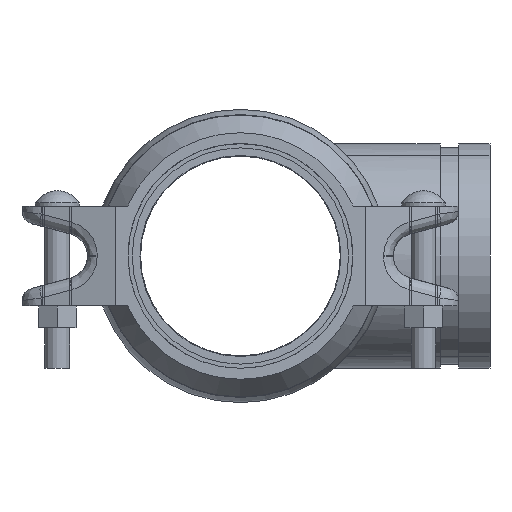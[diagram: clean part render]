
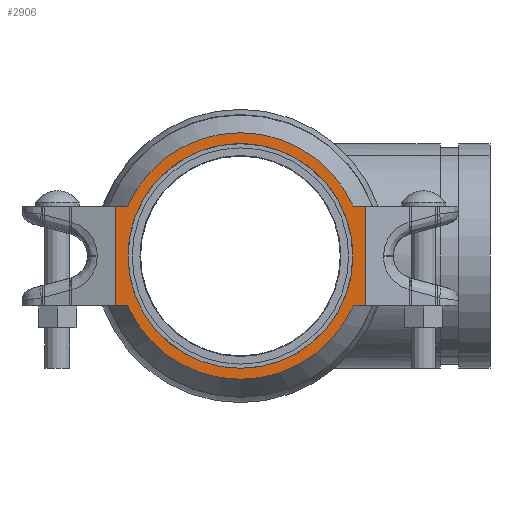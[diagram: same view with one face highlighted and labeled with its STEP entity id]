
A CAD part, left-side view. The second image highlights one B-rep face of the part: STEP entity #2906.
In plain terms, the highlighted planar face has unit normal (-1, 0, 0) as drawn and (0, 0, -1) by its records, which use the part's own axes.
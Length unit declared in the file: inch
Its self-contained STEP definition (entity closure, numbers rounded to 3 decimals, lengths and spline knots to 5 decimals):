
#158=FACE_BOUND('',#549,.T.);
#223=PLANE('',#3314);
#370=FACE_OUTER_BOUND('',#548,.T.);
#548=EDGE_LOOP('',(#2472,#2473,#2474,#2475,#2476,#2477,#2478,#2479));
#549=EDGE_LOOP('',(#2480,#2481));
#602=LINE('',#4739,#779);
#728=LINE('',#5475,#905);
#734=LINE('',#5520,#911);
#735=LINE('',#5527,#912);
#737=LINE('',#5592,#914);
#738=LINE('',#5599,#915);
#779=VECTOR('',#3623,0.3937);
#905=VECTOR('',#4051,0.3937);
#911=VECTOR('',#4065,0.3937);
#912=VECTOR('',#4068,0.3937);
#914=VECTOR('',#4074,0.3937);
#915=VECTOR('',#4077,0.3937);
#1037=CIRCLE('',#3295,2.47);
#1046=CIRCLE('',#3313,2.47);
#1047=CIRCLE('',#3315,2.25);
#1048=CIRCLE('',#3316,2.25);
#1156=VERTEX_POINT('',#4736);
#1157=VERTEX_POINT('',#4738);
#1295=VERTEX_POINT('',#5472);
#1296=VERTEX_POINT('',#5474);
#1300=VERTEX_POINT('',#5487);
#1304=VERTEX_POINT('',#5522);
#1310=VERTEX_POINT('',#5559);
#1314=VERTEX_POINT('',#5594);
#1319=VERTEX_POINT('',#5651);
#1320=VERTEX_POINT('',#5652);
#1458=EDGE_CURVE('',#1157,#1156,#602,.T.);
#1670=EDGE_CURVE('',#1296,#1295,#728,.T.);
#1682=EDGE_CURVE('',#1157,#1300,#734,.T.);
#1684=EDGE_CURVE('',#1304,#1156,#735,.T.);
#1696=EDGE_CURVE('',#1296,#1310,#737,.T.);
#1698=EDGE_CURVE('',#1314,#1295,#738,.T.);
#1703=EDGE_CURVE('',#1304,#1310,#1037,.T.);
#1712=EDGE_CURVE('',#1314,#1300,#1046,.T.);
#1713=EDGE_CURVE('',#1319,#1320,#1047,.T.);
#1714=EDGE_CURVE('',#1320,#1319,#1048,.T.);
#2472=ORIENTED_EDGE('',*,*,#1712,.T.);
#2473=ORIENTED_EDGE('',*,*,#1682,.F.);
#2474=ORIENTED_EDGE('',*,*,#1458,.T.);
#2475=ORIENTED_EDGE('',*,*,#1684,.F.);
#2476=ORIENTED_EDGE('',*,*,#1703,.T.);
#2477=ORIENTED_EDGE('',*,*,#1696,.F.);
#2478=ORIENTED_EDGE('',*,*,#1670,.T.);
#2479=ORIENTED_EDGE('',*,*,#1698,.F.);
#2480=ORIENTED_EDGE('',*,*,#1713,.F.);
#2481=ORIENTED_EDGE('',*,*,#1714,.F.);
#2906=ADVANCED_FACE('',(#370,#158),#223,.T.);
#3295=AXIS2_PLACEMENT_3D('',#5631,#4084,#4085);
#3313=AXIS2_PLACEMENT_3D('',#5649,#4120,#4121);
#3314=AXIS2_PLACEMENT_3D('',#5650,#4122,#4123);
#3315=AXIS2_PLACEMENT_3D('',#5653,#4124,#4125);
#3316=AXIS2_PLACEMENT_3D('',#5654,#4126,#4127);
#3623=DIRECTION('',(0.,-1.,0.));
#4051=DIRECTION('',(0.,1.,0.));
#4065=DIRECTION('',(-1.,0.,0.));
#4068=DIRECTION('',(1.,0.,0.));
#4074=DIRECTION('',(1.,0.,0.));
#4077=DIRECTION('',(-1.,0.,0.));
#4084=DIRECTION('center_axis',(0.,0.,-1.));
#4085=DIRECTION('ref_axis',(-1.,0.,0.));
#4120=DIRECTION('center_axis',(0.,0.,-1.));
#4121=DIRECTION('ref_axis',(-1.,0.,0.));
#4122=DIRECTION('center_axis',(0.,0.,-1.));
#4123=DIRECTION('ref_axis',(1.,0.,0.));
#4124=DIRECTION('center_axis',(0.,0.,-1.));
#4125=DIRECTION('ref_axis',(-1.,0.,0.));
#4126=DIRECTION('center_axis',(0.,0.,-1.));
#4127=DIRECTION('ref_axis',(-1.,0.,0.));
#4736=CARTESIAN_POINT('',(2.5,-1.,-1.065));
#4738=CARTESIAN_POINT('',(2.5,1.,-1.065));
#4739=CARTESIAN_POINT('',(2.5,0.,-1.065));
#5472=CARTESIAN_POINT('',(-2.5,1.,-1.065));
#5474=CARTESIAN_POINT('',(-2.5,-1.,-1.065));
#5475=CARTESIAN_POINT('',(-2.5,0.,-1.065));
#5487=CARTESIAN_POINT('',(2.25852,1.,-1.065));
#5520=CARTESIAN_POINT('',(2.5,1.,-1.065));
#5522=CARTESIAN_POINT('',(2.25852,-1.,-1.065));
#5527=CARTESIAN_POINT('',(2.5,-1.,-1.065));
#5559=CARTESIAN_POINT('',(-2.25852,-1.,-1.065));
#5592=CARTESIAN_POINT('',(2.5,-1.,-1.065));
#5594=CARTESIAN_POINT('',(-2.25852,1.,-1.065));
#5599=CARTESIAN_POINT('',(2.5,1.,-1.065));
#5631=CARTESIAN_POINT('Origin',(0.,0.,-1.065));
#5649=CARTESIAN_POINT('Origin',(0.,0.,-1.065));
#5650=CARTESIAN_POINT('Origin',(0.,-2.25,-1.065));
#5651=CARTESIAN_POINT('',(2.01556,-1.,-1.065));
#5652=CARTESIAN_POINT('',(0.,2.25,-1.065));
#5653=CARTESIAN_POINT('Origin',(0.,0.,-1.065));
#5654=CARTESIAN_POINT('Origin',(0.,0.,-1.065));
